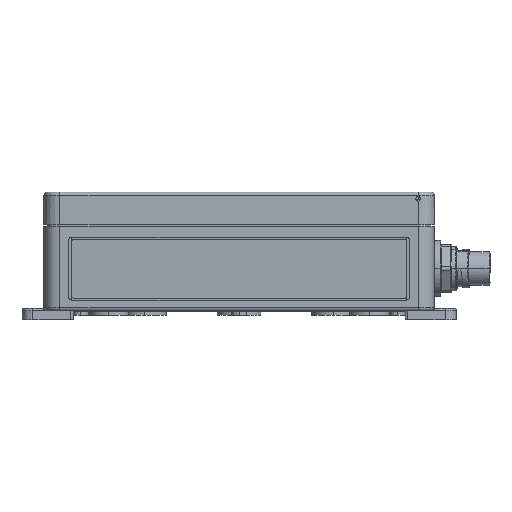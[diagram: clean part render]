
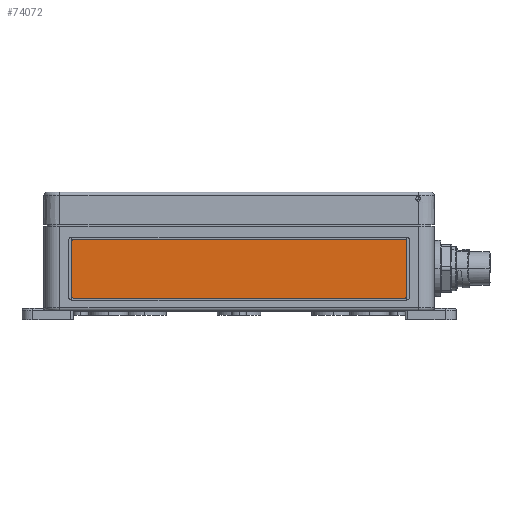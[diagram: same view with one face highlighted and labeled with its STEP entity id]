
A CAD part, left-side view. The second image highlights one B-rep face of the part: STEP entity #74072.
In plain terms, the highlighted planar face has unit normal (-1, 0, 0).
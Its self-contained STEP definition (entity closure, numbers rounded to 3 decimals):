
#4973 = CARTESIAN_POINT ( 'NONE',  ( -47., 76.5, 8.5 ) ) ;
#5344 = EDGE_CURVE ( 'NONE', #186560, #165620, #175386, .T. ) ;
#10737 = DIRECTION ( 'NONE',  ( 1., 0., 0. ) ) ;
#14603 = DIRECTION ( 'NONE',  ( 0., -1., 0. ) ) ;
#14863 = ORIENTED_EDGE ( 'NONE', *, *, #21415, .F. ) ;
#15180 = CARTESIAN_POINT ( 'NONE',  ( -47., 76.5, 8. ) ) ;
#15584 = DIRECTION ( 'NONE',  ( -1., 0., 0. ) ) ;
#15626 = VERTEX_POINT ( 'NONE', #112928 ) ;
#16492 = VERTEX_POINT ( 'NONE', #143237 ) ;
#20181 = VERTEX_POINT ( 'NONE', #178401 ) ;
#21038 = DIRECTION ( 'NONE',  ( 0., 0., -1. ) ) ;
#21415 = EDGE_CURVE ( 'NONE', #20181, #151688, #53664, .T. ) ;
#26145 = CARTESIAN_POINT ( 'NONE',  ( -47., 76.5, 34.5 ) ) ;
#29068 = VECTOR ( 'NONE', #50219, 1000. ) ;
#31229 = AXIS2_PLACEMENT_3D ( 'NONE', #87866, #10737, #180033 ) ;
#38170 = CARTESIAN_POINT ( 'NONE',  ( -47., 77., 8.5 ) ) ;
#45394 = ORIENTED_EDGE ( 'NONE', *, *, #5344, .F. ) ;
#50219 = DIRECTION ( 'NONE',  ( 0., 0., 1. ) ) ;
#51254 = EDGE_CURVE ( 'NONE', #15626, #102616, #184780, .T. ) ;
#53142 = DIRECTION ( 'NONE',  ( 1., 0., 0. ) ) ;
#53569 = LINE ( 'NONE', #131571, #184984 ) ;
#53664 = CIRCLE ( 'NONE', #111155, 0.5 ) ;
#58550 = CIRCLE ( 'NONE', #195872, 0.5 ) ;
#61606 = VERTEX_POINT ( 'NONE', #15180 ) ;
#61732 = CARTESIAN_POINT ( 'NONE',  ( -47., 90., 0. ) ) ;
#66919 = DIRECTION ( 'NONE',  ( 0., 0., -1. ) ) ;
#69546 = DIRECTION ( 'NONE',  ( 0., -1., 0. ) ) ;
#72732 = CIRCLE ( 'NONE', #95232, 0.5 ) ;
#74072 = ADVANCED_FACE ( 'NONE', ( #94676 ), #75736, .T. ) ;
#74182 = DIRECTION ( 'NONE',  ( 0., 0., -1. ) ) ;
#75736 = PLANE ( 'NONE',  #186578 ) ;
#76449 = DIRECTION ( 'NONE',  ( 0., 0., -1. ) ) ;
#83387 = CARTESIAN_POINT ( 'NONE',  ( -47., -76.5, 8. ) ) ;
#87866 = CARTESIAN_POINT ( 'NONE',  ( -47., -76.5, 8.5 ) ) ;
#89480 = DIRECTION ( 'NONE',  ( 0., 1., 0. ) ) ;
#90342 = CARTESIAN_POINT ( 'NONE',  ( -47., -77., 34.5 ) ) ;
#91020 = EDGE_CURVE ( 'NONE', #102616, #61606, #165649, .T. ) ;
#91451 = CARTESIAN_POINT ( 'NONE',  ( -47., -76.5, 34.5 ) ) ;
#94676 = FACE_OUTER_BOUND ( 'NONE', #158199, .T. ) ;
#95232 = AXIS2_PLACEMENT_3D ( 'NONE', #26145, #106173, #74182 ) ;
#102616 = VERTEX_POINT ( 'NONE', #83387 ) ;
#104292 = CARTESIAN_POINT ( 'NONE',  ( -47., 77., 8.5 ) ) ;
#106101 = VECTOR ( 'NONE', #89480, 1000. ) ;
#106173 = DIRECTION ( 'NONE',  ( 1., 0., 0. ) ) ;
#111155 = AXIS2_PLACEMENT_3D ( 'NONE', #91451, #180677, #76449 ) ;
#112928 = CARTESIAN_POINT ( 'NONE',  ( -47., -77., 8.5 ) ) ;
#114733 = ORIENTED_EDGE ( 'NONE', *, *, #51254, .F. ) ;
#120352 = ORIENTED_EDGE ( 'NONE', *, *, #175761, .F. ) ;
#121358 = ORIENTED_EDGE ( 'NONE', *, *, #182287, .F. ) ;
#128892 = EDGE_CURVE ( 'NONE', #16492, #20181, #53569, .T. ) ;
#131571 = CARTESIAN_POINT ( 'NONE',  ( -47., 76.5, 35. ) ) ;
#133571 = CARTESIAN_POINT ( 'NONE',  ( -47., -76.5, 8. ) ) ;
#135346 = ORIENTED_EDGE ( 'NONE', *, *, #128892, .F. ) ;
#136119 = ORIENTED_EDGE ( 'NONE', *, *, #91020, .F. ) ;
#140653 = VECTOR ( 'NONE', #66919, 1000. ) ;
#142498 = ORIENTED_EDGE ( 'NONE', *, *, #186971, .F. ) ;
#143237 = CARTESIAN_POINT ( 'NONE',  ( -47., 76.5, 35. ) ) ;
#144021 = LINE ( 'NONE', #192057, #140653 ) ;
#151688 = VERTEX_POINT ( 'NONE', #90342 ) ;
#158199 = EDGE_LOOP ( 'NONE', ( #135346, #120352, #45394, #142498, #136119, #114733, #121358, #14863 ) ) ;
#164698 = CARTESIAN_POINT ( 'NONE',  ( -47., 77., 34.5 ) ) ;
#165620 = VERTEX_POINT ( 'NONE', #164698 ) ;
#165649 = LINE ( 'NONE', #133571, #106101 ) ;
#175386 = LINE ( 'NONE', #38170, #29068 ) ;
#175761 = EDGE_CURVE ( 'NONE', #165620, #16492, #72732, .T. ) ;
#178401 = CARTESIAN_POINT ( 'NONE',  ( -47., -76.5, 35. ) ) ;
#180033 = DIRECTION ( 'NONE',  ( 0., 0., -1. ) ) ;
#180677 = DIRECTION ( 'NONE',  ( 1., 0., 0. ) ) ;
#182287 = EDGE_CURVE ( 'NONE', #151688, #15626, #144021, .T. ) ;
#184780 = CIRCLE ( 'NONE', #31229, 0.5 ) ;
#184984 = VECTOR ( 'NONE', #69546, 1000. ) ;
#186560 = VERTEX_POINT ( 'NONE', #104292 ) ;
#186578 = AXIS2_PLACEMENT_3D ( 'NONE', #61732, #15584, #14603 ) ;
#186971 = EDGE_CURVE ( 'NONE', #61606, #186560, #58550, .T. ) ;
#192057 = CARTESIAN_POINT ( 'NONE',  ( -47., -77., 34.5 ) ) ;
#195872 = AXIS2_PLACEMENT_3D ( 'NONE', #4973, #53142, #21038 ) ;
